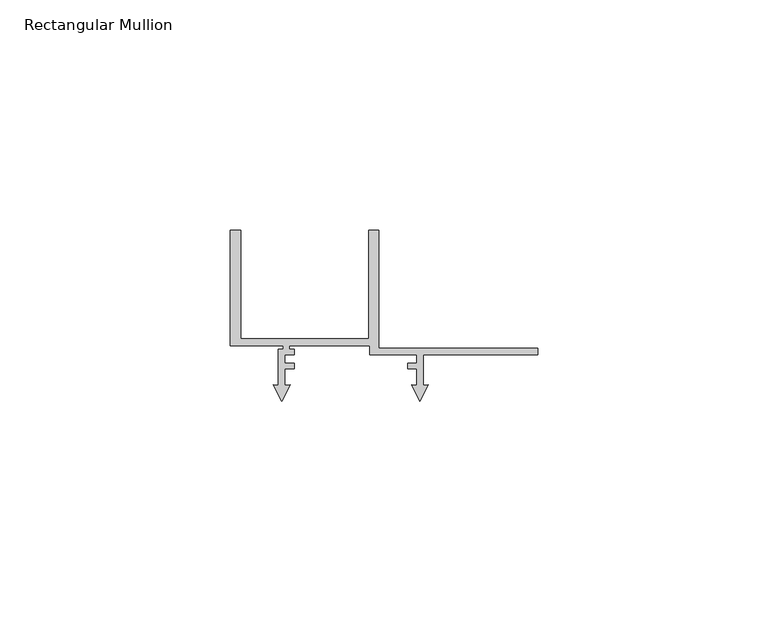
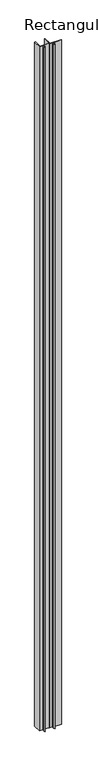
"""IFC4 building model written with IfcOpenShell, lengths in millimetres: member geometry, Rectangular Mullion : Renson_Linarte_LA-E25-01."""

from ifc_helpers import new_model, si_unit, frame, origin, place, context, project, spatial, polyline, outline, extrude, source, transform, mapped, element, save


def rectangular_mullion_26476c5b(model_context):
    return source(origin(), model_context, "Body", "SweptSolid", [
        extrude(outline(polyline([(66.6, 80.6000494), (66.6, 79.1000494), (41.8, 79.1000494), (41.8, 72.5071867), (42.9255299, 72.6056578), (41.0999986, 69.0228474), (39.2744672, 72.6056581), (40.3999998, 72.5071867), (40.3999998, 76.099221), (38.4077357, 76.099221), (38.4077357, 77.3000494), (40.3999995, 77.3000494), (40.3999995, 79.1000494), (30.1732051, 79.1000494), (30.1732051, 81.1000494), (12.8, 81.1000494), (12.8, 80.3015754), (13.7880766, 80.3015754), (13.7880766, 79.1000494), (11.8091794, 79.1000494), (11.8091794, 77.3000494), (13.7875618, 77.3000494), (13.7875618, 76.0979618), (11.7999987, 76.0979618), (11.7999987, 72.5038712), (12.9157351, 72.6014855), (11.0999986, 69.037898), (9.284262, 72.6014855), (10.3999985, 72.5038712), (10.3999985, 80.3015754), (11.4, 80.3015754), (11.4, 81.1000494), (0.0, 81.1000494), (0.0, 106.1000494), (2.2, 106.1000494), (2.2, 82.6000494), (30.0, 82.6000494), (30.0, 106.1000494), (32.2, 106.1000494), (32.2, 80.6000494), (66.6, 80.6000494)])), frame((0.0, 0.0, -2225.0), z_axis=(0.0, 0.0, 1.0), x_axis=(1.0, 0.0, 0.0)), (0.0, 0.0, 1.0), 2225.0),
    ])


if __name__ == "__main__":
    model = new_model("IFC4")
    model_context = context("Model", 3, world=origin())
    ifc_project = project(units=[si_unit("LENGTHUNIT", "METRE", prefix="MILLI")], contexts=[model_context])
    site = spatial("IfcSite", under=ifc_project)
    building = spatial("IfcBuilding", under=site)
    placement = place(None, origin())
    rectangular_mullion_shape = rectangular_mullion_26476c5b(model_context)
    element("IfcMember", 1, ObjectType="Rectangular Mullion : Renson_Linarte_LA-E25-01", at=placement, inside=building, context=model_context, shape_type="MappedRepresentation", body=[
        mapped(rectangular_mullion_shape, transform((0.0, 0.0, 0.0), x_axis=(1.0, 0.0, 0.0), y_axis=(0.0, 1.0, 0.0), z_axis=(0.0, 0.0, 1.0))),
    ])
    save(model, "model.ifc")
